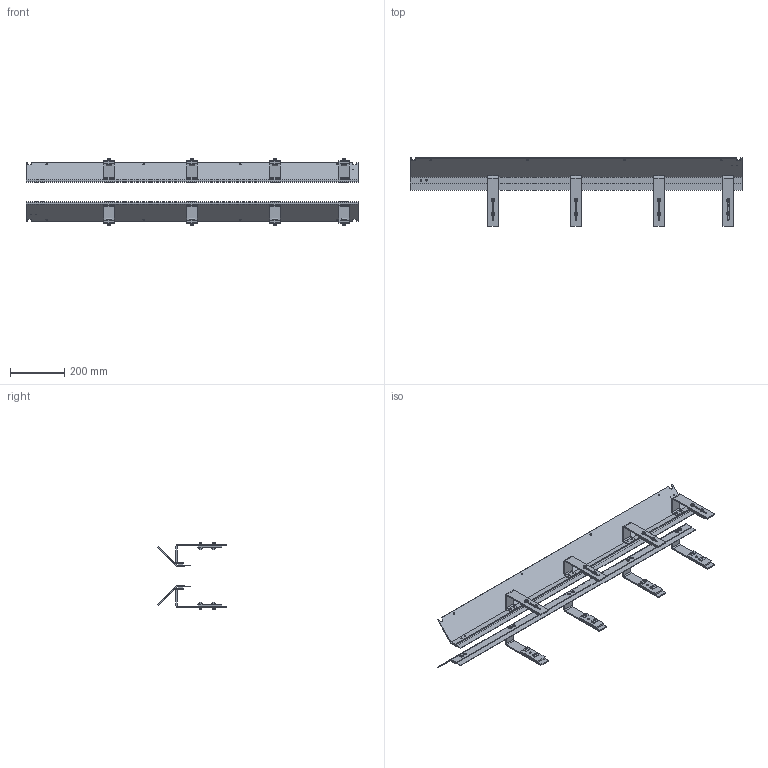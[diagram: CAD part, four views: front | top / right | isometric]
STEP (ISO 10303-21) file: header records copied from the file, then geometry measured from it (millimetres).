
FILE_DESCRIPTION((''),'2;1');
FILE_NAME('301294_ASM_ASM','2023-03-03T',('jenni.wallner'),(''),'PRO/ENGINEER BY PARAMETRIC TECHNOLOGY CORPORATION, 2012420','PRO/ENGINEER BY PARAMETRIC TECHNOLOGY CORPORATION, 2012420','');
FILE_SCHEMA(('CONFIG_CONTROL_DESIGN'));
Length unit declared in the file: inch
Products named in the file (12): 301279; 301274; 920684M; 639971M; 930512M; 301295_ASM_ASM; 300861M; 300746; 300697M; 930508M; ASM0001_ASM; 301294_ASM_ASM
Assembly tree (27 placements, depth 4):
  301294_ASM_ASM
    ASM0001_ASM
      301295_ASM_ASM  x8
        301279
        301274
        920684M
        639971M
        930512M
      300861M  x2
      300746  x2
      300697M  x2
      930508M  x4
Bounding box: 1219.2 x 251.81 x 242.99 mm (x, y, z)
Volume: 1780456.2 mm3; surface area: 1281474.5 mm2
Topology: 74 solids, 122 shells, 1712 faces, 4288 edges, 2800 vertices
Faces by surface type: plane 792, cylinder 704, cone 216
Entity records: 8305 total; most frequent: DIRECTION 1536, CARTESIAN_POINT 1432, ORIENTED_EDGE 1228, EDGE_CURVE 630, AXIS2_PLACEMENT_3D 596, VERTEX_POINT 414, VECTOR 344, LINE 344
